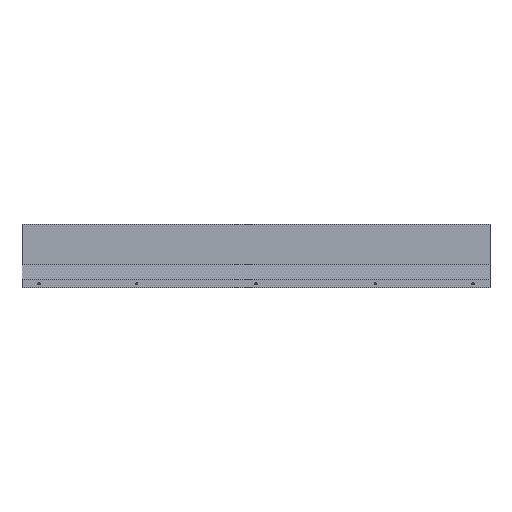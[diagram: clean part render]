
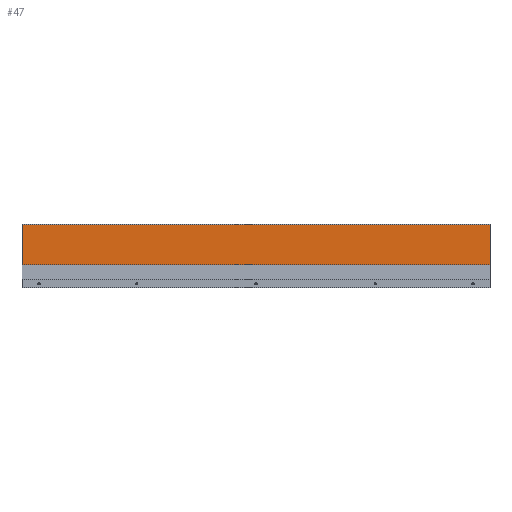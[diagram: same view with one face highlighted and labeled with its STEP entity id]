
A CAD part, top view. The second image highlights one B-rep face of the part: STEP entity #47.
In plain terms, the highlighted planar face has unit normal (0, 0, 1).
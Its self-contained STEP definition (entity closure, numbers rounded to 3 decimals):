
#47 = ADVANCED_FACE( '', ( #105 ), #106, .F. );
#105 = FACE_OUTER_BOUND( '', #190, .T. );
#106 = PLANE( '', #191 );
#190 = EDGE_LOOP( '', ( #276, #277, #278, #279 ) );
#191 = AXIS2_PLACEMENT_3D( '', #280, #281, #282 );
#276 = ORIENTED_EDGE( '', *, *, #434, .T. );
#277 = ORIENTED_EDGE( '', *, *, #435, .F. );
#278 = ORIENTED_EDGE( '', *, *, #436, .F. );
#279 = ORIENTED_EDGE( '', *, *, #437, .T. );
#280 = CARTESIAN_POINT( '', ( 1060., 139.58, -83.91 ) );
#281 = DIRECTION( '', ( 0., 0., -1. ) );
#282 = DIRECTION( '', ( -1., 0., 0. ) );
#434 = EDGE_CURVE( '', #503, #504, #505, .T. );
#435 = EDGE_CURVE( '', #506, #504, #507, .T. );
#436 = EDGE_CURVE( '', #508, #506, #509, .T. );
#437 = EDGE_CURVE( '', #508, #503, #510, .T. );
#503 = VERTEX_POINT( '', #604 );
#504 = VERTEX_POINT( '', #605 );
#505 = LINE( '', #606, #607 );
#506 = VERTEX_POINT( '', #608 );
#507 = LINE( '', #609, #610 );
#508 = VERTEX_POINT( '', #611 );
#509 = LINE( '', #612, #613 );
#510 = LINE( '', #614, #615 );
#604 = CARTESIAN_POINT( '', ( -40., 139.58, -83.91 ) );
#605 = CARTESIAN_POINT( '', ( -40., 44.572, -83.91 ) );
#606 = CARTESIAN_POINT( '', ( -40., 139.58, -83.91 ) );
#607 = VECTOR( '', #722, 1000. );
#608 = CARTESIAN_POINT( '', ( 1060., 44.572, -83.91 ) );
#609 = CARTESIAN_POINT( '', ( 1060., 44.572, -83.91 ) );
#610 = VECTOR( '', #723, 1000. );
#611 = CARTESIAN_POINT( '', ( 1060., 139.58, -83.91 ) );
#612 = CARTESIAN_POINT( '', ( 1060., 139.58, -83.91 ) );
#613 = VECTOR( '', #724, 1000. );
#614 = CARTESIAN_POINT( '', ( 1060., 139.58, -83.91 ) );
#615 = VECTOR( '', #725, 1000. );
#722 = DIRECTION( '', ( 0., -1., 0. ) );
#723 = DIRECTION( '', ( -1., 0., 0. ) );
#724 = DIRECTION( '', ( 0., -1., 0. ) );
#725 = DIRECTION( '', ( -1., 0., 0. ) );
